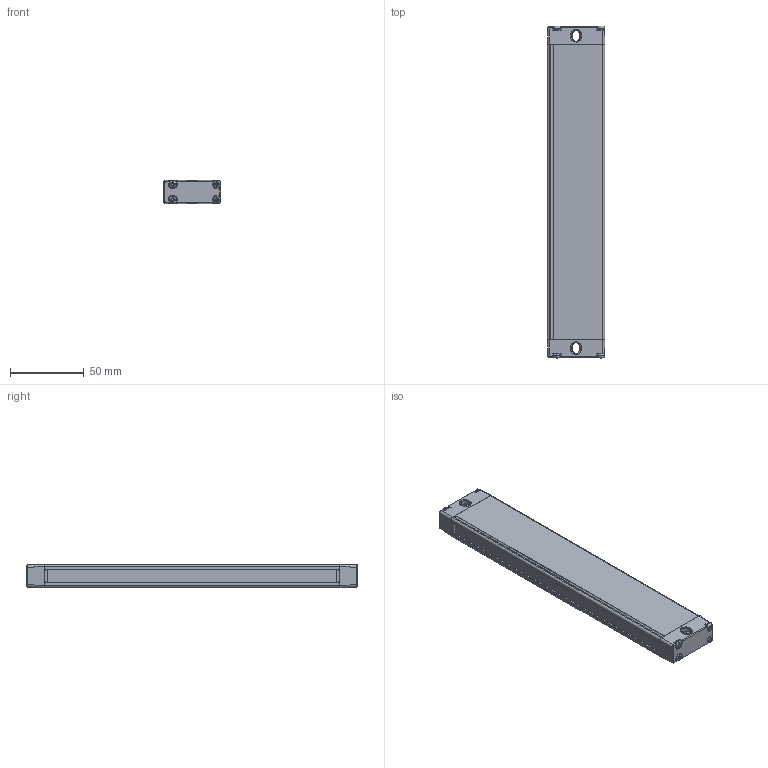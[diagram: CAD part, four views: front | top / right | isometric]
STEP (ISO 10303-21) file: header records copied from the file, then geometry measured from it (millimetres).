
FILE_DESCRIPTION((''),'2;1');
FILE_NAME('EB15--3610_ASM','2021-07-22T09:56:46',('18720616900'),(''),'CREO PARAMETRIC BY PTC INC, 2019010','CREO PARAMETRIC BY PTC INC, 2019010','');
FILE_SCHEMA(('CONFIG_CONTROL_DESIGN'));
Length unit declared in the file: millimetre
Products named in the file (6): EB15-00; EB15-000; EB15-0003; EB15-0004; ST-3-12; EB15--3610_ASM
Assembly tree (12 placements, depth 2):
  EB15--3610_ASM
    EB15-00
    EB15-000
    EB15-0003
    EB15-0004
    ST-3-12  x8
Bounding box: 39.15 x 225 x 15.8 mm (x, y, z)
Volume: 134603.4 mm3; surface area: 37233 mm2
Topology: 12 solids, 12 shells, 827 faces, 2188 edges, 1368 vertices
Faces by surface type: plane 242, bspline 188, cone 176, cylinder 165, torus 40, sphere 16
Entity records: 16044 total; most frequent: CARTESIAN_POINT 7660, ORIENTED_EDGE 1804, DIRECTION 1603, EDGE_CURVE 902, AXIS2_PLACEMENT_3D 577, VERTEX_POINT 563, VECTOR 449, LINE 449
